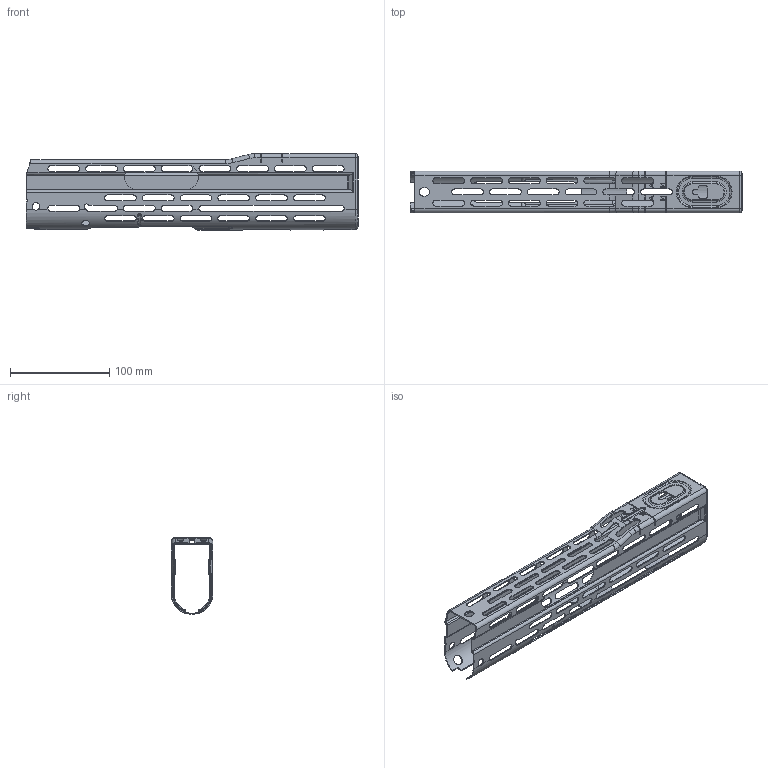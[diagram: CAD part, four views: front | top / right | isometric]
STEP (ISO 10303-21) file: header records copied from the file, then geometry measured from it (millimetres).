
FILE_DESCRIPTION(/* description */ (''),/* implementation_level */ '2;1');
FILE_NAME(/* name */ 'SPASCage.step',/* time_stamp */ '2023-03-25T06:26:02+01:00',/* author */ (''),/* organization */ (''),/* preprocessor_version */ 'ST-DEVELOPER v19.2',/* originating_system */ 'Autodesk Translation Framework v11.17.0.187',/* authorisation */ '');
FILE_SCHEMA (('AUTOMOTIVE_DESIGN { 1 0 10303 214 3 1 1 }'));
Length unit declared in the file: millimetre
Products named in the file (1): SPASCage16
Bounding box: 334 x 42 x 77 mm (x, y, z)
Volume: 50300.1 mm3; surface area: 107638.5 mm2
Topology: 1 solids, 1 shells, 625 faces, 1897 edges, 1235 vertices
Faces by surface type: plane 272, cylinder 269, bspline 38, torus 34, sphere 12
Full cylindrical faces by diameter (mm): 7.5 x2, 8 x1, 10 x1
Entity records: 24575 total; most frequent: CARTESIAN_POINT 7477, ORIENTED_EDGE 3774, DIRECTION 3334, EDGE_CURVE 1887, VERTEX_POINT 1235, AXIS2_PLACEMENT_3D 1130, LINE 1074, VECTOR 1074
